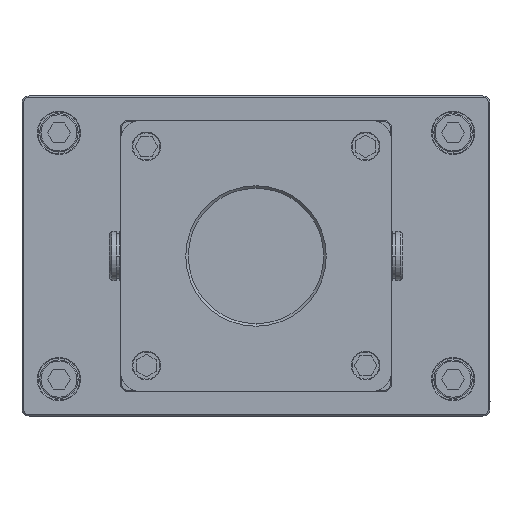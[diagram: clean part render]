
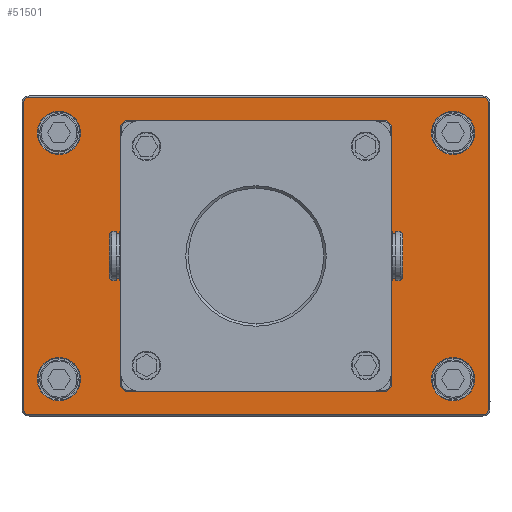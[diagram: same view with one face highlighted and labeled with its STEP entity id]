
A CAD part, front view. The second image highlights one B-rep face of the part: STEP entity #51501.
In plain terms, the highlighted planar face has unit normal (0, -1, 0) as drawn and (0, 1, 0) by its records, which use the part's own axes.
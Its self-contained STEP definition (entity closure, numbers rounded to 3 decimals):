
#49953=CARTESIAN_POINT('',(0.,9.,0.));
#49954=DIRECTION('',(0.,-1.,0.));
#49955=DIRECTION('',(1.,0.,0.));
#49956=AXIS2_PLACEMENT_3D('',#49953,#49954,#49955);
#49958=CARTESIAN_POINT('',(0.,9.,0.));
#49959=DIRECTION('',(0.,-1.,0.));
#49960=DIRECTION('',(-1.,0.,0.));
#49961=AXIS2_PLACEMENT_3D('',#49958,#49959,#49960);
#49963=CARTESIAN_POINT('',(-92.,9.,-62.));
#49964=DIRECTION('',(0.,1.,0.));
#49965=DIRECTION('',(0.,0.,-1.));
#49966=AXIS2_PLACEMENT_3D('',#49963,#49964,#49965);
#49968=DIRECTION('',(-1.,0.,0.));
#49969=VECTOR('',#49968,184.);
#49970=CARTESIAN_POINT('',(92.,9.,
-64.5));
#49971=LINE('',#49970,#49969);
#49972=CARTESIAN_POINT('',(92.,9.,-62.));
#49973=DIRECTION('',(0.,1.,0.));
#49974=DIRECTION('',(1.,0.,0.));
#49975=AXIS2_PLACEMENT_3D('',#49972,#49973,#49974);
#49977=DIRECTION('',(0.,0.,-1.));
#49978=VECTOR('',#49977,124.);
#49979=CARTESIAN_POINT('',(94.5,9.,62.));
#49980=LINE('',#49979,#49978);
#49981=CARTESIAN_POINT('',(92.,9.,62.));
#49982=DIRECTION('',(0.,1.,0.));
#49983=DIRECTION('',(0.,0.,1.));
#49984=AXIS2_PLACEMENT_3D('',#49981,#49982,#49983);
#49986=DIRECTION('',(1.,0.,0.));
#49987=VECTOR('',#49986,184.);
#49988=CARTESIAN_POINT('',(-92.,9.,
64.5));
#49989=LINE('',#49988,#49987);
#49990=CARTESIAN_POINT('',(-92.,9.,62.));
#49991=DIRECTION('',(0.,1.,0.));
#49992=DIRECTION('',(-1.,0.,0.));
#49993=AXIS2_PLACEMENT_3D('',#49990,#49991,#49992);
#49995=DIRECTION('',(0.,0.,1.));
#49996=VECTOR('',#49995,124.);
#49997=CARTESIAN_POINT('',(-94.5,9.,
-62.));
#49998=LINE('',#49997,#49996);
#49999=CARTESIAN_POINT('',(80.,9.,50.));
#50000=DIRECTION('',(0.,-1.,0.));
#50001=DIRECTION('',(1.,0.,0.));
#50002=AXIS2_PLACEMENT_3D('',#49999,#50000,#50001);
#50004=CARTESIAN_POINT('',(80.,9.,50.));
#50005=DIRECTION('',(0.,-1.,0.));
#50006=DIRECTION('',(-1.,0.,0.));
#50007=AXIS2_PLACEMENT_3D('',#50004,#50005,#50006);
#50009=CARTESIAN_POINT('',(-80.,9.,50.));
#50010=DIRECTION('',(0.,-1.,0.));
#50011=DIRECTION('',(1.,0.,0.));
#50012=AXIS2_PLACEMENT_3D('',#50009,#50010,#50011);
#50014=CARTESIAN_POINT('',(-80.,9.,50.));
#50015=DIRECTION('',(0.,-1.,0.));
#50016=DIRECTION('',(-1.,0.,0.));
#50017=AXIS2_PLACEMENT_3D('',#50014,#50015,#50016);
#50019=CARTESIAN_POINT('',(80.,9.,-50.));
#50020=DIRECTION('',(0.,-1.,0.));
#50021=DIRECTION('',(1.,0.,0.));
#50022=AXIS2_PLACEMENT_3D('',#50019,#50020,#50021);
#50024=CARTESIAN_POINT('',(80.,9.,-50.));
#50025=DIRECTION('',(0.,-1.,0.));
#50026=DIRECTION('',(-1.,0.,0.));
#50027=AXIS2_PLACEMENT_3D('',#50024,#50025,#50026);
#50029=CARTESIAN_POINT('',(-80.,9.,-50.));
#50030=DIRECTION('',(0.,-1.,0.));
#50031=DIRECTION('',(1.,0.,0.));
#50032=AXIS2_PLACEMENT_3D('',#50029,#50030,#50031);
#50034=CARTESIAN_POINT('',(-80.,9.,-50.));
#50035=DIRECTION('',(0.,-1.,0.));
#50036=DIRECTION('',(-1.,0.,0.));
#50037=AXIS2_PLACEMENT_3D('',#50034,#50035,#50036);
#50039=CARTESIAN_POINT('',(-44.5,9.,-44.5));
#50040=DIRECTION('',(0.,1.,0.));
#50041=DIRECTION('',(1.,0.,0.));
#50042=AXIS2_PLACEMENT_3D('',#50039,#50040,#50041);
#50044=CARTESIAN_POINT('',(-44.5,9.,-44.5));
#50045=DIRECTION('',(0.,1.,0.));
#50046=DIRECTION('',(-1.,0.,0.));
#50047=AXIS2_PLACEMENT_3D('',#50044,#50045,#50046);
#50049=CARTESIAN_POINT('',(-44.5,9.,44.5));
#50050=DIRECTION('',(0.,1.,0.));
#50051=DIRECTION('',(0.,0.,-1.));
#50052=AXIS2_PLACEMENT_3D('',#50049,#50050,#50051);
#50054=CARTESIAN_POINT('',(-44.5,9.,44.5));
#50055=DIRECTION('',(0.,1.,0.));
#50056=DIRECTION('',(0.,0.,1.));
#50057=AXIS2_PLACEMENT_3D('',#50054,#50055,#50056);
#50059=CARTESIAN_POINT('',(44.5,9.,44.5));
#50060=DIRECTION('',(0.,1.,0.));
#50061=DIRECTION('',(-1.,0.,0.));
#50062=AXIS2_PLACEMENT_3D('',#50059,#50060,#50061);
#50064=CARTESIAN_POINT('',(44.5,9.,44.5));
#50065=DIRECTION('',(0.,1.,0.));
#50066=DIRECTION('',(1.,0.,0.));
#50067=AXIS2_PLACEMENT_3D('',#50064,#50065,#50066);
#50069=CARTESIAN_POINT('',(44.5,9.,-44.5));
#50070=DIRECTION('',(0.,1.,0.));
#50071=DIRECTION('',(0.,0.,1.));
#50072=AXIS2_PLACEMENT_3D('',#50069,#50070,#50071);
#50074=CARTESIAN_POINT('',(44.5,9.,-44.5));
#50075=DIRECTION('',(0.,1.,0.));
#50076=DIRECTION('',(0.,0.,-1.));
#50077=AXIS2_PLACEMENT_3D('',#50074,#50075,#50076);
#50985=CARTESIAN_POINT('',(38.,9.,0.));
#50986=CARTESIAN_POINT('',(-38.,9.,0.));
#50987=VERTEX_POINT('',#50985);
#50988=VERTEX_POINT('',#50986);
#51033=CARTESIAN_POINT('',(-92.,9.,-64.5));
#51034=CARTESIAN_POINT('',(-94.5,9.,-62.));
#51035=VERTEX_POINT('',#51033);
#51036=VERTEX_POINT('',#51034);
#51041=CARTESIAN_POINT('',(-94.5,9.,
62.));
#51042=VERTEX_POINT('',#51041);
#51045=CARTESIAN_POINT('',(-92.,9.,64.5));
#51046=VERTEX_POINT('',#51045);
#51049=CARTESIAN_POINT('',(92.,9.,64.5));
#51050=VERTEX_POINT('',#51049);
#51053=CARTESIAN_POINT('',(94.5,9.,62.));
#51054=VERTEX_POINT('',#51053);
#51057=CARTESIAN_POINT('',(94.5,9.,
-62.));
#51058=VERTEX_POINT('',#51057);
#51061=CARTESIAN_POINT('',(92.,9.,-64.5));
#51062=VERTEX_POINT('',#51061);
#51081=CARTESIAN_POINT('',(88.8,9.,50.));
#51082=CARTESIAN_POINT('',(71.2,9.,50.));
#51083=VERTEX_POINT('',#51081);
#51084=VERTEX_POINT('',#51082);
#51105=CARTESIAN_POINT('',(-71.2,9.,50.));
#51106=CARTESIAN_POINT('',(-88.8,9.,50.));
#51107=VERTEX_POINT('',#51105);
#51108=VERTEX_POINT('',#51106);
#51121=CARTESIAN_POINT('',(88.8,9.,-50.));
#51122=CARTESIAN_POINT('',(71.2,9.,-50.));
#51123=VERTEX_POINT('',#51121);
#51124=VERTEX_POINT('',#51122);
#51129=CARTESIAN_POINT('',(-71.2,9.,-50.));
#51130=CARTESIAN_POINT('',(-88.8,9.,-50.));
#51131=VERTEX_POINT('',#51129);
#51132=VERTEX_POINT('',#51130);
#51229=CARTESIAN_POINT('',(-39.5,9.,-44.5));
#51230=CARTESIAN_POINT('',(-49.5,9.,-44.5));
#51231=VERTEX_POINT('',#51229);
#51232=VERTEX_POINT('',#51230);
#51237=CARTESIAN_POINT('',(-44.5,9.,39.5));
#51238=CARTESIAN_POINT('',(-44.5,9.,49.5));
#51239=VERTEX_POINT('',#51237);
#51240=VERTEX_POINT('',#51238);
#51245=CARTESIAN_POINT('',(39.5,9.,44.5));
#51246=CARTESIAN_POINT('',(49.5,9.,44.5));
#51247=VERTEX_POINT('',#51245);
#51248=VERTEX_POINT('',#51246);
#51253=CARTESIAN_POINT('',(44.5,9.,-39.5));
#51254=CARTESIAN_POINT('',(44.5,9.,-49.5));
#51255=VERTEX_POINT('',#51253);
#51256=VERTEX_POINT('',#51254);
#51425=CARTESIAN_POINT('',(0.,9.,0.));
#51426=DIRECTION('',(0.,1.,0.));
#51427=DIRECTION('',(1.,0.,0.));
#51428=AXIS2_PLACEMENT_3D('',#51425,#51426,#51427);
#51429=PLANE('',#51428);
#51431=ORIENTED_EDGE('',*,*,#51430,.F.);
#51433=ORIENTED_EDGE('',*,*,#51432,.F.);
#51435=ORIENTED_EDGE('',*,*,#51434,.F.);
#51437=ORIENTED_EDGE('',*,*,#51436,.F.);
#51439=ORIENTED_EDGE('',*,*,#51438,.F.);
#51441=ORIENTED_EDGE('',*,*,#51440,.F.);
#51443=ORIENTED_EDGE('',*,*,#51442,.F.);
#51445=ORIENTED_EDGE('',*,*,#51444,.F.);
#51446=EDGE_LOOP('',(#51431,#51433,#51435,#51437,#51439,#51441,#51443,#51445));
#51447=FACE_OUTER_BOUND('',#51446,.F.);
#51449=ORIENTED_EDGE('',*,*,#51448,.F.);
#51450=ORIENTED_EDGE('',*,*,#51415,.F.);
#51451=EDGE_LOOP('',(#51449,#51450));
#51452=FACE_BOUND('',#51451,.F.);
#51454=ORIENTED_EDGE('',*,*,#51453,.F.);
#51456=ORIENTED_EDGE('',*,*,#51455,.F.);
#51457=EDGE_LOOP('',(#51454,#51456));
#51458=FACE_BOUND('',#51457,.F.);
#51460=ORIENTED_EDGE('',*,*,#51459,.F.);
#51462=ORIENTED_EDGE('',*,*,#51461,.F.);
#51463=EDGE_LOOP('',(#51460,#51462));
#51464=FACE_BOUND('',#51463,.F.);
#51466=ORIENTED_EDGE('',*,*,#51465,.F.);
#51468=ORIENTED_EDGE('',*,*,#51467,.F.);
#51469=EDGE_LOOP('',(#51466,#51468));
#51470=FACE_BOUND('',#51469,.F.);
#51472=ORIENTED_EDGE('',*,*,#51471,.F.);
#51474=ORIENTED_EDGE('',*,*,#51473,.F.);
#51475=EDGE_LOOP('',(#51472,#51474));
#51476=FACE_BOUND('',#51475,.F.);
#51478=ORIENTED_EDGE('',*,*,#51477,.T.);
#51480=ORIENTED_EDGE('',*,*,#51479,.T.);
#51481=EDGE_LOOP('',(#51478,#51480));
#51482=FACE_BOUND('',#51481,.F.);
#51484=ORIENTED_EDGE('',*,*,#51483,.T.);
#51486=ORIENTED_EDGE('',*,*,#51485,.T.);
#51487=EDGE_LOOP('',(#51484,#51486));
#51488=FACE_BOUND('',#51487,.F.);
#51490=ORIENTED_EDGE('',*,*,#51489,.T.);
#51492=ORIENTED_EDGE('',*,*,#51491,.T.);
#51493=EDGE_LOOP('',(#51490,#51492));
#51494=FACE_BOUND('',#51493,.F.);
#51496=ORIENTED_EDGE('',*,*,#51495,.T.);
#51498=ORIENTED_EDGE('',*,*,#51497,.T.);
#51499=EDGE_LOOP('',(#51496,#51498));
#51500=FACE_BOUND('',#51499,.F.);
#51501=ADVANCED_FACE('',(#51447,#51452,#51458,#51464,#51470,#51476,#51482,
#51488,#51494,#51500),#51429,.T.);
#49957=CIRCLE('',#49956,38.);
#49962=CIRCLE('',#49961,38.);
#49967=CIRCLE('',#49966,2.5);
#49976=CIRCLE('',#49975,2.5);
#49985=CIRCLE('',#49984,2.5);
#49994=CIRCLE('',#49993,2.5);
#50003=CIRCLE('',#50002,8.8);
#50008=CIRCLE('',#50007,8.8);
#50013=CIRCLE('',#50012,8.8);
#50018=CIRCLE('',#50017,8.8);
#50023=CIRCLE('',#50022,8.8);
#50028=CIRCLE('',#50027,8.8);
#50033=CIRCLE('',#50032,8.8);
#50038=CIRCLE('',#50037,8.8);
#50043=CIRCLE('',#50042,5.);
#50048=CIRCLE('',#50047,5.);
#50053=CIRCLE('',#50052,5.);
#50058=CIRCLE('',#50057,5.);
#50063=CIRCLE('',#50062,5.);
#50068=CIRCLE('',#50067,5.);
#50073=CIRCLE('',#50072,5.);
#50078=CIRCLE('',#50077,5.);
#51415=EDGE_CURVE('',#50988,#50987,#49962,.T.);
#51430=EDGE_CURVE('',#51035,#51036,#49967,.T.);
#51432=EDGE_CURVE('',#51062,#51035,#49971,.T.);
#51434=EDGE_CURVE('',#51058,#51062,#49976,.T.);
#51436=EDGE_CURVE('',#51054,#51058,#49980,.T.);
#51438=EDGE_CURVE('',#51050,#51054,#49985,.T.);
#51440=EDGE_CURVE('',#51046,#51050,#49989,.T.);
#51442=EDGE_CURVE('',#51042,#51046,#49994,.T.);
#51444=EDGE_CURVE('',#51036,#51042,#49998,.T.);
#51448=EDGE_CURVE('',#50987,#50988,#49957,.T.);
#51453=EDGE_CURVE('',#51083,#51084,#50003,.T.);
#51455=EDGE_CURVE('',#51084,#51083,#50008,.T.);
#51459=EDGE_CURVE('',#51107,#51108,#50013,.T.);
#51461=EDGE_CURVE('',#51108,#51107,#50018,.T.);
#51465=EDGE_CURVE('',#51123,#51124,#50023,.T.);
#51467=EDGE_CURVE('',#51124,#51123,#50028,.T.);
#51471=EDGE_CURVE('',#51131,#51132,#50033,.T.);
#51473=EDGE_CURVE('',#51132,#51131,#50038,.T.);
#51477=EDGE_CURVE('',#51231,#51232,#50043,.T.);
#51479=EDGE_CURVE('',#51232,#51231,#50048,.T.);
#51483=EDGE_CURVE('',#51239,#51240,#50053,.T.);
#51485=EDGE_CURVE('',#51240,#51239,#50058,.T.);
#51489=EDGE_CURVE('',#51247,#51248,#50063,.T.);
#51491=EDGE_CURVE('',#51248,#51247,#50068,.T.);
#51495=EDGE_CURVE('',#51255,#51256,#50073,.T.);
#51497=EDGE_CURVE('',#51256,#51255,#50078,.T.);
